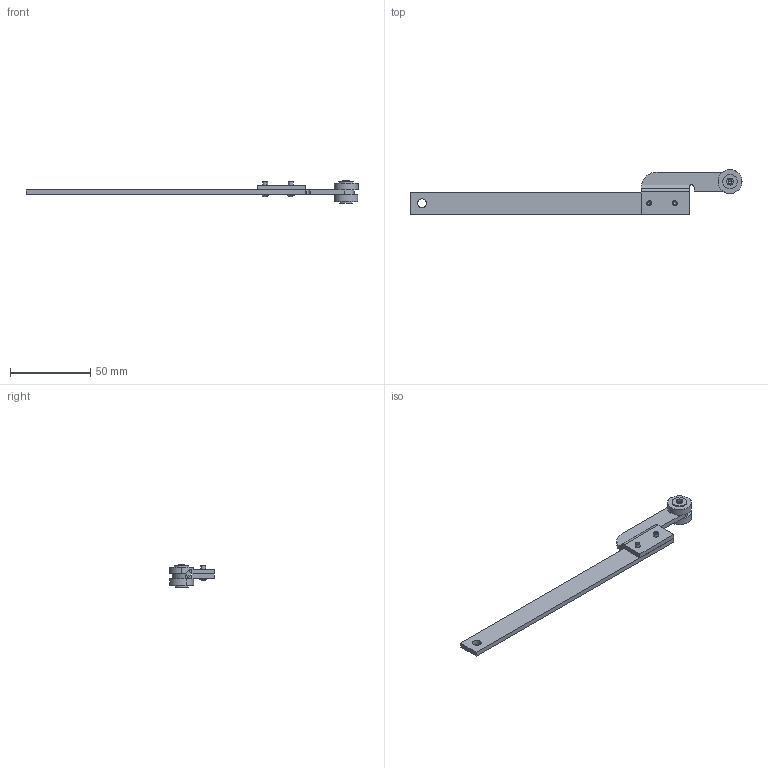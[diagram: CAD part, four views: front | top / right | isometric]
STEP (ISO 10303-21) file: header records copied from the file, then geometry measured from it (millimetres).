
FILE_DESCRIPTION (( 'STEP AP214' ), '1' );
FILE_NAME ('1C.AB17-5-L.STEP', '2025-12-04T12:25:02', ( '' ), ( '' ), 'SwSTEP 2.0', 'SolidWorks 2021', '' );
FILE_SCHEMA (( 'AUTOMOTIVE_DESIGN' ));
Length unit declared in the file: millimetre
Products named in the file (8): 1C.AB17-5-L; DIN 125_M4; 1C.ROLKA.02.04.00_A-zak; DIN 6791_fi3x8; P.052723_AB-5; 1C.905.001_A; P.052724_AB-17; A.007462_AB-17
Assembly tree (9 placements, depth 3):
  1C.AB17-5-L
    P.052723_AB-5
    A.007462_AB-17
      P.052724_AB-17
      1C.905.001_A  x2
      1C.ROLKA.02.04.00_A-zak
      DIN 125_M4
    DIN 6791_fi3x8  x2
Bounding box: 207.5 x 28 x 14 mm (x, y, z)
Volume: 12314.9 mm3; surface area: 10785.7 mm2
Topology: 8 solids, 8 shells, 99 faces, 216 edges, 133 vertices
Faces by surface type: cylinder 48, plane 35, cone 6, torus 4, sphere 4, bspline 2
Entity records: 2651 total; most frequent: CARTESIAN_POINT 472, DIRECTION 436, ORIENTED_EDGE 352, AXIS2_PLACEMENT_3D 176, EDGE_CURVE 176, VERTEX_POINT 111, EDGE_LOOP 101, LINE 84
